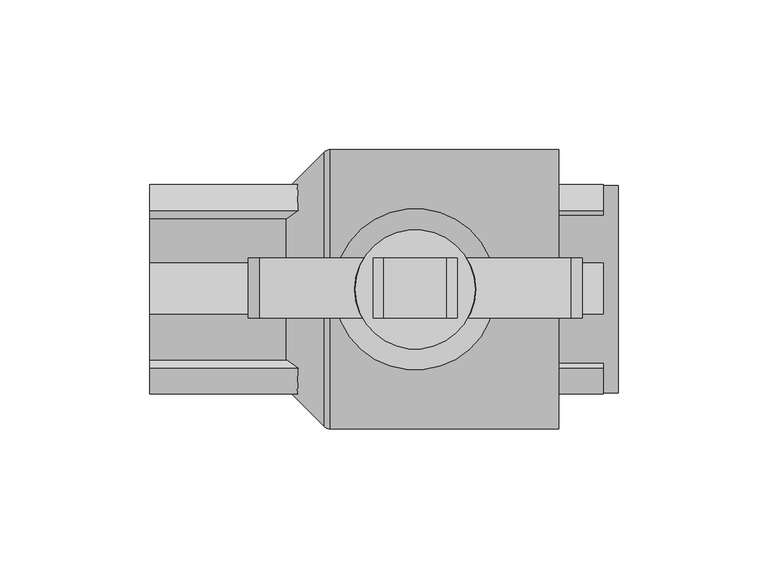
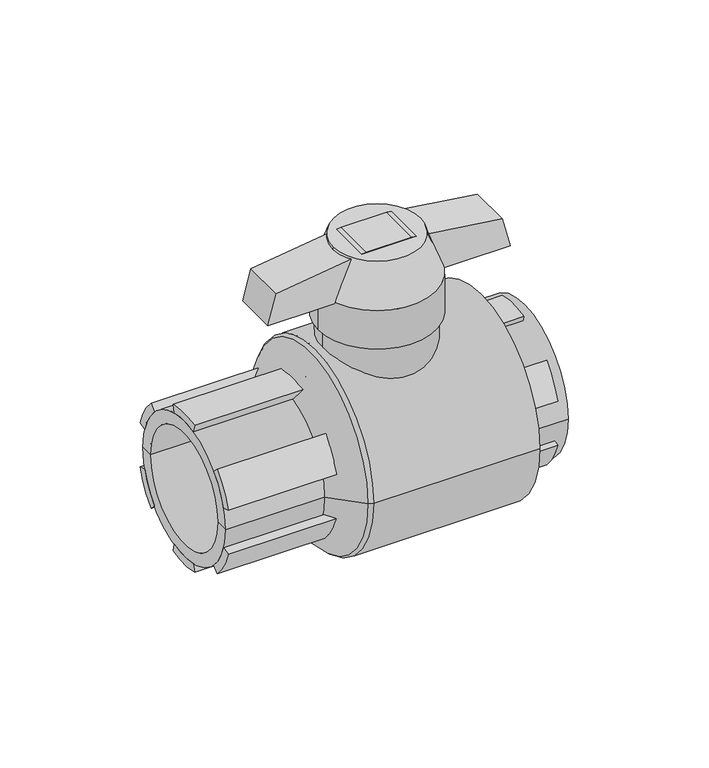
"""IFC4 building model written with IfcOpenShell, lengths in millimetres: valve geometry, Valvula Bola_Lubrizol_CPVC_FlowGuard_MX 50mm : Valvula Bola_Lubrizol_CPVC_FlowGuard_MX 50mm."""

from ifc_helpers import new_model, si_unit, point, frame, frame_2d, origin, origin_2d, place, context, project, spatial, polyline, circle_curve, ellipse_curve, trimmed, segment, composite_curve, outline, extrude, source, transform, mapped, element, save
from ifc_brep_helpers import plane_surface, cylinder_surface, revolved_surface, advanced_brep


def valve_d10ab8b9(model_context):
    return source(origin(), model_context, "Body", "SolidModel", [
        extrude(outline(composite_curve([segment(polyline([(-7.4233848, 32.1542121), (-8.2482053, 35.7269024)]), True, "CONTINUOUS"), segment(trimmed(circle_curve(origin_2d(), 36.6666667), [point((-8.2482053, 35.7269024))], [point((8.8704695, 35.57751))], False, "CARTESIAN"), True, "CONTINUOUS"), segment(polyline([(8.8704695, 35.57751), (7.9834226, 32.019759)]), True, "CONTINUOUS"), segment(trimmed(circle_curve(origin_2d(), 33.0), [point((7.9834226, 32.019759))], [point((-7.4233848, 32.1542121))], True, "CARTESIAN"), True, "CONTINUOUS")], self_intersect=False)), frame((85.4166667, 0.0, 0.0), z_axis=(1.0, 0.0, 0.0), x_axis=(0.0, 1.0, 0.0)), (0.0, 0.0, 1.0), 14.9216069),
        extrude(outline(composite_curve([segment(trimmed(circle_curve(origin_2d(), 33.0), [point((31.5580569, 9.6482663))], [point((23.7382134, 22.9237262))], True, "CARTESIAN"), True, "CONTINUOUS"), segment(polyline([(23.7382134, 22.9237262), (26.3757927, 25.4708069)]), True, "CONTINUOUS"), segment(trimmed(circle_curve(origin_2d(), 36.6666667), [point((26.3757927, 25.4708069))], [point((35.0645077, 10.7202958))], False, "CARTESIAN"), True, "CONTINUOUS"), segment(polyline([(35.0645077, 10.7202958), (31.5580569, 9.6482663)]), True, "CONTINUOUS")], self_intersect=False)), frame((85.4166667, 0.0, 0.0), z_axis=(1.0, 0.0, 0.0), x_axis=(0.0, 1.0, 0.0)), (0.0, 0.0, 1.0), 14.9216069),
        extrude(outline(composite_curve([segment(trimmed(circle_curve(origin_2d(), 33.0), [point((-7.4233848, -32.1542121))], [point((7.9834226, -32.019759))], True, "CARTESIAN"), True, "CONTINUOUS"), segment(polyline([(7.9834226, -32.019759), (8.8704695, -35.57751)]), True, "CONTINUOUS"), segment(trimmed(circle_curve(origin_2d(), 36.6666667), [point((8.8704695, -35.57751))], [point((-8.2482053, -35.7269024))], False, "CARTESIAN"), True, "CONTINUOUS"), segment(polyline([(-8.2482053, -35.7269024), (-7.4233848, -32.1542121)]), True, "CONTINUOUS")], self_intersect=False)), frame((85.4166667, 0.0, 0.0), z_axis=(1.0, 0.0, 0.0), x_axis=(0.0, 1.0, 0.0)), (0.0, 0.0, 1.0), 14.9216069),
        extrude(outline(composite_curve([segment(polyline([(31.5580569, -9.6482663), (35.0645077, -10.7202958)]), True, "CONTINUOUS"), segment(trimmed(circle_curve(origin_2d(), 36.6666667), [point((35.0645077, -10.7202958))], [point((26.3757927, -25.4708069))], False, "CARTESIAN"), True, "CONTINUOUS"), segment(polyline([(26.3757927, -25.4708069), (23.7382134, -22.9237262)]), True, "CONTINUOUS"), segment(trimmed(circle_curve(origin_2d(), 33.0), [point((23.7382134, -22.9237262))], [point((31.5580569, -9.6482663))], True, "CARTESIAN"), True, "CONTINUOUS")], self_intersect=False)), frame((85.4166667, 0.0, 0.0), z_axis=(1.0, 0.0, 0.0), x_axis=(0.0, 1.0, 0.0)), (0.0, 0.0, 1.0), 14.9216069),
        extrude(outline(composite_curve([segment(polyline([(-31.5580569, 9.6482663), (-35.0645077, 10.7202958)]), True, "CONTINUOUS"), segment(trimmed(circle_curve(origin_2d(), 36.6666667), [point((-35.0645077, 10.7202958))], [point((-26.3757927, 25.4708069))], False, "CARTESIAN"), True, "CONTINUOUS"), segment(polyline([(-26.3757927, 25.4708069), (-23.7382134, 22.9237262)]), True, "CONTINUOUS"), segment(trimmed(circle_curve(origin_2d(), 33.0), [point((-23.7382134, 22.9237262))], [point((-31.5580569, 9.6482663))], True, "CARTESIAN"), True, "CONTINUOUS")], self_intersect=False)), frame((85.4166667, 0.0, 0.0), z_axis=(1.0, 0.0, 0.0), x_axis=(0.0, 1.0, 0.0)), (0.0, 0.0, 1.0), 14.9216069),
        extrude(outline(composite_curve([segment(trimmed(circle_curve(origin_2d(), 33.0), [point((-31.5580569, -9.6482663))], [point((-23.7382134, -22.9237262))], True, "CARTESIAN"), True, "CONTINUOUS"), segment(polyline([(-23.7382134, -22.9237262), (-26.3757927, -25.4708069)]), True, "CONTINUOUS"), segment(trimmed(circle_curve(origin_2d(), 36.6666667), [point((-26.3757927, -25.4708069))], [point((-35.0645077, -10.7202958))], False, "CARTESIAN"), True, "CONTINUOUS"), segment(polyline([(-35.0645077, -10.7202958), (-31.5580569, -9.6482663)]), True, "CONTINUOUS")], self_intersect=False)), frame((85.4166667, 0.0, 0.0), z_axis=(1.0, 0.0, 0.0), x_axis=(0.0, 1.0, 0.0)), (0.0, 0.0, 1.0), 14.9216069),
        extrude(outline(polyline([(73.4388563, -18.3396882), (73.4388563, 93.3396882), (87.7011933, 89.5181065), (93.4388563, 48.0000577), (93.4388563, 26.9999423), (87.7011933, -14.5181065), (73.4388563, -18.3396882)])), frame((0.0, -9.5979078, 0.0), z_axis=(0.0, 1.0, 0.0), x_axis=(0.0, 0.0, 1.0)), (0.0, 0.0, 1.0), 20.0),
        advanced_brep(
        [(17.5, 0.0, 93.4388563), (57.5, 0.0, 93.4388563), (10.5, 0.0, 74.4388563), (64.5, 0.0, 74.4388563)],
        [
            (0, 1, circle_curve(frame((37.5, 0.0, 93.4388563), z_axis=(0.0, 0.0, 1.0), x_axis=(-1.0, 0.0, 0.0)), 20.0)),
            (1, 0, circle_curve(frame((37.5, 0.0, 93.4388563), z_axis=(0.0, 0.0, 1.0), x_axis=(1.0, 0.0, 0.0)), 20.0)),
            (2, 3, circle_curve(frame((37.5, 0.0, 74.4388563), z_axis=(0.0, 0.0, -1.0), x_axis=(1.0, 0.0, 0.0)), 27.0)),
            (3, 2, circle_curve(frame((37.5, 0.0, 74.4388563), z_axis=(0.0, 0.0, -1.0), x_axis=(-1.0, 0.0, 0.0)), 27.0)),
            (3, 1),
            (0, 2),
        ],
        [
            plane_surface(frame((37.5, 0.0, 93.4388563), z_axis=(0.0, 0.0, 1.0), x_axis=(0.0, -1.0, 0.0))),
            plane_surface(frame((37.5, 0.0, 74.4388563), z_axis=(0.0, 0.0, -1.0), x_axis=(0.0, -1.0, 0.0))),
            revolved_surface(polyline([(17.499999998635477, 0.0, 93.4388563), (10.5, 0.0, 74.4388563)]), (37.5, 0.0, 147.7245706), (0.0, 0.0, -1.0)),
            revolved_surface(polyline([(57.500000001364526, 0.0, 93.4388563), (64.5, 0.0, 74.4388563)]), (37.5, 0.0, 147.7245706), (0.0, 0.0, -1.0)),
        ],
        [
            (0, [[1, 2]]),
            (1, [[3, 4]]),
            (2, [[-4, 5, -1, 6]]),
            (3, [[-3, -6, -2, -5]]),
        ],
    ),
        extrude(outline(composite_curve([segment(trimmed(circle_curve(frame_2d((37.5, 0.0)), 27.0), [point((10.5, 0.0))], [point((64.5, 0.0))], False, "CARTESIAN"), True, "CONTINUOUS"), segment(trimmed(circle_curve(frame_2d((37.5, 0.0)), 27.0), [point((64.5, 0.0))], [point((10.5, 0.0))], False, "CARTESIAN"), True, "CONTINUOUS")], self_intersect=False)), frame((0.0, 0.0, 55.6194234), z_axis=(0.0, 0.0, 1.0), x_axis=(1.0, 0.0, 0.0)), (0.0, 0.0, 1.0), 18.8194329),
        extrude(outline(composite_curve([segment(trimmed(circle_curve(frame_2d((37.5, 0.0)), 25.0), [point((12.5, 0.0))], [point((62.5, 0.0))], False, "CARTESIAN"), True, "CONTINUOUS"), segment(trimmed(circle_curve(frame_2d((37.5, 0.0)), 25.0), [point((62.5, 0.0))], [point((12.5, 0.0))], False, "CARTESIAN"), True, "CONTINUOUS")], self_intersect=False)), frame((0.0, 0.0, 21.621719), z_axis=(0.0, 0.0, 1.0), x_axis=(1.0, 0.0, 0.0)), (0.0, 0.0, 1.0), 33.9977045),
        extrude(outline(composite_curve([segment(polyline([(-7.4233848, 32.1542121), (-8.2482053, 35.7269024)]), True, "CONTINUOUS"), segment(trimmed(circle_curve(origin_2d(), 36.6666667), [point((-8.2482053, 35.7269024))], [point((8.8704695, 35.57751))], False, "CARTESIAN"), True, "CONTINUOUS"), segment(polyline([(8.8704695, 35.57751), (7.9834226, 32.019759)]), True, "CONTINUOUS"), segment(trimmed(circle_curve(origin_2d(), 33.0), [point((7.9834226, 32.019759))], [point((-7.4233848, 32.1542121))], True, "CARTESIAN"), True, "CONTINUOUS")], self_intersect=False)), frame((-51.25, 0.0, 0.0), z_axis=(1.0, 0.0, 0.0), x_axis=(0.0, 1.0, 0.0)), (0.0, 0.0, 1.0), 55.0239222),
        extrude(outline(composite_curve([segment(trimmed(circle_curve(origin_2d(), 33.0), [point((31.5580569, 9.6482663))], [point((23.7382134, 22.9237262))], True, "CARTESIAN"), True, "CONTINUOUS"), segment(polyline([(23.7382134, 22.9237262), (26.3757927, 25.4708069)]), True, "CONTINUOUS"), segment(trimmed(circle_curve(origin_2d(), 36.6666667), [point((26.3757927, 25.4708069))], [point((35.0645077, 10.7202958))], False, "CARTESIAN"), True, "CONTINUOUS"), segment(polyline([(35.0645077, 10.7202958), (31.5580569, 9.6482663)]), True, "CONTINUOUS")], self_intersect=False)), frame((-51.25, 0.0, 0.0), z_axis=(1.0, 0.0, 0.0), x_axis=(0.0, 1.0, 0.0)), (0.0, 0.0, 1.0), 55.0239222),
        extrude(outline(composite_curve([segment(trimmed(circle_curve(origin_2d(), 33.0), [point((-7.4233848, -32.1542121))], [point((7.9834226, -32.019759))], True, "CARTESIAN"), True, "CONTINUOUS"), segment(polyline([(7.9834226, -32.019759), (8.8704695, -35.57751)]), True, "CONTINUOUS"), segment(trimmed(circle_curve(origin_2d(), 36.6666667), [point((8.8704695, -35.57751))], [point((-8.2482053, -35.7269024))], False, "CARTESIAN"), True, "CONTINUOUS"), segment(polyline([(-8.2482053, -35.7269024), (-7.4233848, -32.1542121)]), True, "CONTINUOUS")], self_intersect=False)), frame((-51.25, 0.0, 0.0), z_axis=(1.0, 0.0, 0.0), x_axis=(0.0, 1.0, 0.0)), (0.0, 0.0, 1.0), 55.0239222),
        extrude(outline(composite_curve([segment(polyline([(31.5580569, -9.6482663), (35.0645077, -10.7202958)]), True, "CONTINUOUS"), segment(trimmed(circle_curve(origin_2d(), 36.6666667), [point((35.0645077, -10.7202958))], [point((26.3757927, -25.4708069))], False, "CARTESIAN"), True, "CONTINUOUS"), segment(polyline([(26.3757927, -25.4708069), (23.7382134, -22.9237262)]), True, "CONTINUOUS"), segment(trimmed(circle_curve(origin_2d(), 33.0), [point((23.7382134, -22.9237262))], [point((31.5580569, -9.6482663))], True, "CARTESIAN"), True, "CONTINUOUS")], self_intersect=False)), frame((-51.25, 0.0, 0.0), z_axis=(1.0, 0.0, 0.0), x_axis=(0.0, 1.0, 0.0)), (0.0, 0.0, 1.0), 55.0239222),
        extrude(outline(composite_curve([segment(polyline([(-31.5580569, 9.6482663), (-35.0645077, 10.7202958)]), True, "CONTINUOUS"), segment(trimmed(circle_curve(origin_2d(), 36.6666667), [point((-35.0645077, 10.7202958))], [point((-26.3757927, 25.4708069))], False, "CARTESIAN"), True, "CONTINUOUS"), segment(polyline([(-26.3757927, 25.4708069), (-23.7382134, 22.9237262)]), True, "CONTINUOUS"), segment(trimmed(circle_curve(origin_2d(), 33.0), [point((-23.7382134, 22.9237262))], [point((-31.5580569, 9.6482663))], True, "CARTESIAN"), True, "CONTINUOUS")], self_intersect=False)), frame((-51.25, 0.0, 0.0), z_axis=(1.0, 0.0, 0.0), x_axis=(0.0, 1.0, 0.0)), (0.0, 0.0, 1.0), 55.0239222),
        extrude(outline(composite_curve([segment(trimmed(circle_curve(origin_2d(), 33.0), [point((-31.5580569, -9.6482663))], [point((-23.7382134, -22.9237262))], True, "CARTESIAN"), True, "CONTINUOUS"), segment(polyline([(-23.7382134, -22.9237262), (-26.3757927, -25.4708069)]), True, "CONTINUOUS"), segment(trimmed(circle_curve(origin_2d(), 36.6666667), [point((-26.3757927, -25.4708069))], [point((-35.0645077, -10.7202958))], False, "CARTESIAN"), True, "CONTINUOUS"), segment(polyline([(-35.0645077, -10.7202958), (-31.5580569, -9.6482663)]), True, "CONTINUOUS")], self_intersect=False)), frame((-51.25, 0.0, 0.0), z_axis=(1.0, 0.0, 0.0), x_axis=(0.0, 1.0, 0.0)), (0.0, 0.0, 1.0), 55.0239222),
        advanced_brep(
        [(72.0833333, -28.0, 0.0), (72.0833333, 28.0, 0.0), (72.0833333, 0.0, 0.0), (105.4166667, -28.0, 0.0), (105.4166667, 28.0, 0.0), (105.4166667, -34.6666667, 0.0), (105.4166667, 34.6666667, 0.0), (85.4166667, -34.6666667, 0.0), (85.4166667, 34.6666667, 0.0), (85.4166667, -46.7595178, 0.0), (85.4166667, 46.7595178, 0.0), (9.1002823, -46.7595178, 0.0), (9.1002823, 46.7595178, 0.0), (-51.25, -33.0, 0.0), (-51.25, 33.0, 0.0), (-5.7428511, 33.0, 0.0), (-5.7428511, -33.0, 0.0), (-51.25, -27.0, 0.0), (-51.25, 27.0, 0.0), (13.75, -27.0, 0.0), (13.75, 27.0, 0.0), (13.75, 0.0, 0.0), (7.0833333, -45.8261845, 0.0), (7.0833333, 45.8261845, 0.0)],
        [
            (0, 1, circle_curve(frame((72.0833333, 0.0, 0.0), z_axis=(1.0, 0.0, 0.0), x_axis=(0.0, 1.0, 0.0)), 28.0)),
            (1, 2),
            (2, 0),
            (1, 0, circle_curve(frame((72.0833333, 0.0, 0.0), z_axis=(1.0, 0.0, 0.0), x_axis=(0.0, 1.0, 0.0)), 28.0)),
            (3, 4, circle_curve(frame((105.4166667, 0.0, 0.0), z_axis=(1.0, 0.0, 0.0), x_axis=(0.0, 1.0, 0.0)), 28.0)),
            (4, 1),
            (0, 3),
            (4, 3, circle_curve(frame((105.4166667, 0.0, 0.0), z_axis=(1.0, 0.0, 0.0), x_axis=(0.0, 1.0, 0.0)), 28.0)),
            (5, 6, circle_curve(frame((105.4166667, 0.0, 0.0), z_axis=(1.0, 0.0, 0.0), x_axis=(0.0, 1.0, 0.0)), 34.6666667)),
            (6, 4),
            (3, 5),
            (6, 5, circle_curve(frame((105.4166667, 0.0, 0.0), z_axis=(1.0, 0.0, 0.0), x_axis=(0.0, 1.0, 0.0)), 34.6666667)),
            (7, 8, circle_curve(frame((85.4166667, 0.0, 0.0), z_axis=(1.0, 0.0, 0.0), x_axis=(0.0, 1.0, 0.0)), 34.6666667)),
            (8, 6),
            (5, 7),
            (8, 7, circle_curve(frame((85.4166667, 0.0, 0.0), z_axis=(1.0, 0.0, 0.0), x_axis=(0.0, 1.0, 0.0)), 34.6666667)),
            (9, 10, circle_curve(frame((85.4166667, 0.0, 0.0), z_axis=(1.0, 0.0, 0.0), x_axis=(0.0, 1.0, 0.0)), 46.7595178)),
            (10, 8),
            (7, 9),
            (10, 9, circle_curve(frame((85.4166667, 0.0, 0.0), z_axis=(1.0, 0.0, 0.0), x_axis=(0.0, 1.0, 0.0)), 46.7595178)),
            (11, 12, circle_curve(frame((9.1002823, 0.0, 0.0), z_axis=(1.0, 0.0, 0.0), x_axis=(0.0, 1.0, 0.0)), 46.7595178)),
            (12, 10),
            (9, 11),
            (12, 11, circle_curve(frame((9.1002823, 0.0, 0.0), z_axis=(1.0, 0.0, 0.0), x_axis=(0.0, 1.0, 0.0)), 46.7595178)),
            (13, 14, circle_curve(frame((-51.25, 0.0, 0.0), z_axis=(1.0, 0.0, 0.0), x_axis=(0.0, 1.0, 0.0)), 33.0)),
            (14, 15),
            (15, 16, circle_curve(frame((-5.7428511, 0.0, 0.0), z_axis=(-1.0, 0.0, 0.0), x_axis=(0.0, 1.0, 0.0)), 33.0)),
            (16, 13),
            (14, 13, circle_curve(frame((-51.25, 0.0, 0.0), z_axis=(1.0, 0.0, 0.0), x_axis=(0.0, 1.0, 0.0)), 33.0)),
            (16, 15, circle_curve(frame((-5.7428511, 0.0, 0.0), z_axis=(-1.0, 0.0, 0.0), x_axis=(0.0, 1.0, 0.0)), 33.0)),
            (17, 18, circle_curve(frame((-51.25, 0.0, 0.0), z_axis=(1.0, 0.0, 0.0), x_axis=(0.0, 1.0, 0.0)), 27.0)),
            (18, 14),
            (13, 17),
            (18, 17, circle_curve(frame((-51.25, 0.0, 0.0), z_axis=(1.0, 0.0, 0.0), x_axis=(0.0, 1.0, 0.0)), 27.0)),
            (19, 20, circle_curve(frame((13.75, 0.0, 0.0), z_axis=(1.0, 0.0, 0.0), x_axis=(0.0, 1.0, 0.0)), 27.0)),
            (20, 18),
            (17, 19),
            (20, 19, circle_curve(frame((13.75, 0.0, 0.0), z_axis=(1.0, 0.0, 0.0), x_axis=(0.0, 1.0, 0.0)), 27.0)),
            (21, 20),
            (19, 21),
            (22, 23, circle_curve(frame((7.0833333, 0.0, 0.0), z_axis=(1.0, 0.0, 0.0), x_axis=(0.0, 1.0, 0.0)), 45.8261845)),
            (23, 12, circle_curve(frame((9.3623676, 43.5471502, 0.0), z_axis=(0.0, 0.0, -1.0), x_axis=(1.0, 0.0, 0.0)), 3.2230411)),
            (11, 22, circle_curve(frame((9.3623676, -43.5471502, 0.0), z_axis=(0.0, 0.0, -1.0), x_axis=(1.0, 0.0, 0.0)), 3.2230411)),
            (23, 22, circle_curve(frame((7.0833333, 0.0, 0.0), z_axis=(1.0, 0.0, 0.0), x_axis=(0.0, 1.0, 0.0)), 45.8261845)),
            (15, 23),
            (22, 16),
        ],
        [
            plane_surface(frame((72.0833333, 0.0, 0.0), z_axis=(1.0, 0.0, 0.0), x_axis=(0.0, 1.0, 0.0))),
            revolved_surface(polyline([(72.08333330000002, 28.0, 0.0), (105.41666669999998, 28.0, 0.0)]), (-55.9952921, 0.0, 0.0), (-1.0, 0.0, 0.0)),
            plane_surface(frame((105.4166667, 0.0, 0.0), z_axis=(1.0, 0.0, 0.0), x_axis=(0.0, 1.0, 0.0))),
            cylinder_surface(frame((-55.9952921, 0.0, 0.0), z_axis=(-1.0, 0.0, 0.0), x_axis=(0.0, 1.0, 0.0)), 34.6666667),
            plane_surface(frame((85.4166667, 0.0, 0.0), z_axis=(1.0, 0.0, 0.0), x_axis=(0.0, 1.0, 0.0))),
            cylinder_surface(frame((-55.9952921, 0.0, 0.0), z_axis=(-1.0, 0.0, 0.0), x_axis=(0.0, 1.0, 0.0)), 46.7595178),
            cylinder_surface(frame((-55.9952921, 0.0, 0.0), z_axis=(-1.0, 0.0, 0.0), x_axis=(0.0, 1.0, 0.0)), 33.0),
            plane_surface(frame((-51.25, 0.0, 0.0), z_axis=(-1.0, 0.0, 0.0), x_axis=(0.0, 1.0, 0.0))),
            revolved_surface(polyline([(-51.25, 27.0, 0.0), (13.75, 27.0, 0.0)]), (-55.9952921, 0.0, 0.0), (-1.0, 0.0, 0.0)),
            plane_surface(frame((13.75, 0.0, 0.0), z_axis=(-1.0, 0.0, 0.0), x_axis=(0.0, 1.0, 0.0))),
            revolved_surface(trimmed(ellipse_curve(frame((9.3623676, 43.5471502, 0.0), z_axis=(0.0, 0.0, 1.0), x_axis=(1.0, 0.0, 0.0)), 3.2230411, 3.2230411), [point((9.1002823, 46.7595178, 0.0))], [point((7.0833333, 45.8261845, 0.0))], True, "CARTESIAN"), (-55.9952921, 0.0, 0.0), (-1.0, 0.0, 0.0)),
            revolved_surface(polyline([(7.0833333, 45.8261845, 0.0), (-5.7428511, 33.0, 0.0)]), (-55.9952921, 0.0, 0.0), (-1.0, 0.0, 0.0)),
        ],
        [
            (0, [[1, 2, 3]]),
            (0, [[4, -3, -2]]),
            (1, [[5, 6, -1, 7]]),
            (1, [[8, -7, -4, -6]]),
            (2, [[9, 10, -5, 11]]),
            (2, [[12, -11, -8, -10]]),
            (3, [[13, 14, -9, 15]]),
            (3, [[16, -15, -12, -14]]),
            (4, [[17, 18, -13, 19]]),
            (4, [[20, -19, -16, -18]]),
            (5, [[21, 22, -17, 23]]),
            (5, [[24, -23, -20, -22]]),
            (6, [[25, 26, 27, 28]]),
            (6, [[29, -28, 30, -26]]),
            (7, [[31, 32, -25, 33]]),
            (7, [[34, -33, -29, -32]]),
            (8, [[35, 36, -31, 37]]),
            (8, [[38, -37, -34, -36]]),
            (9, [[39, -35, 40]]),
            (9, [[-40, -38, -39]]),
            (10, [[41, 42, -21, 43]]),
            (10, [[44, -43, -24, -42]]),
            (11, [[-27, 45, -41, 46]]),
            (11, [[-30, -46, -44, -45]]),
        ],
    ),
    ])


if __name__ == "__main__":
    model = new_model("IFC4")
    model_context = context("Model", 3, world=origin())
    ifc_project = project(units=[si_unit("LENGTHUNIT", "METRE", prefix="MILLI")], contexts=[model_context])
    site = spatial("IfcSite", under=ifc_project)
    building = spatial("IfcBuilding", under=site)
    placement = place(None, origin())
    valve_shape = valve_d10ab8b9(model_context)
    element("IfcValve", 1, ObjectType="Valvula Bola_Lubrizol_CPVC_FlowGuard_MX 50mm : Valvula Bola_Lubrizol_CPVC_FlowGuard_MX 50mm", at=placement, inside=building, context=model_context, shape_type="MappedRepresentation", body=[
        mapped(valve_shape, transform((0.0, 0.0, 0.0), x_axis=(1.0, 0.0, 0.0), y_axis=(0.0, 1.0, 0.0), z_axis=(0.0, 0.0, 1.0))),
    ])
    save(model, "model.ifc")
